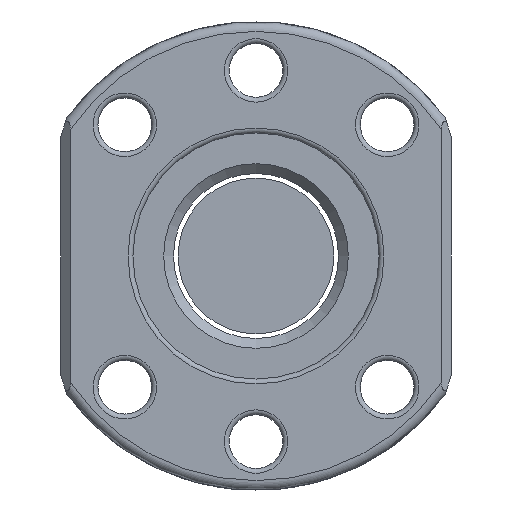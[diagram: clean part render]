
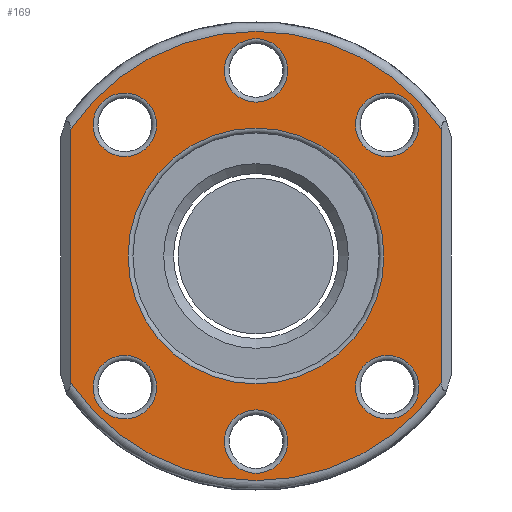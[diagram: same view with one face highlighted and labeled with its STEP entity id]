
A CAD part, front view. The second image highlights one B-rep face of the part: STEP entity #169.
In plain terms, the highlighted planar face has unit normal (0, -1, 0).
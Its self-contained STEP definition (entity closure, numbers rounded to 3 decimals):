
#64=LINE('',#1147,#88);
#65=LINE('',#1151,#89);
#88=VECTOR('',#931,1.);
#89=VECTOR('',#934,1.);
#132=PLANE('',#801);
#169=ADVANCED_FACE('',(#238,#239,#240,#241,#242,#243,#244,#245),#132,.T.);
#238=FACE_BOUND('',#317,.T.);
#239=FACE_BOUND('',#318,.T.);
#240=FACE_BOUND('',#319,.T.);
#241=FACE_BOUND('',#320,.T.);
#242=FACE_BOUND('',#321,.T.);
#243=FACE_BOUND('',#322,.T.);
#244=FACE_BOUND('',#323,.T.);
#245=FACE_BOUND('',#324,.T.);
#317=EDGE_LOOP('',(#417));
#318=EDGE_LOOP('',(#418));
#319=EDGE_LOOP('',(#419));
#320=EDGE_LOOP('',(#420));
#321=EDGE_LOOP('',(#421));
#322=EDGE_LOOP('',(#422));
#323=EDGE_LOOP('',(#423));
#324=EDGE_LOOP('',(#424,#425,#426,#427));
#417=ORIENTED_EDGE('',*,*,#657,.T.);
#418=ORIENTED_EDGE('',*,*,#658,.T.);
#419=ORIENTED_EDGE('',*,*,#659,.T.);
#420=ORIENTED_EDGE('',*,*,#660,.T.);
#421=ORIENTED_EDGE('',*,*,#661,.T.);
#422=ORIENTED_EDGE('',*,*,#662,.T.);
#423=ORIENTED_EDGE('',*,*,#663,.T.);
#424=ORIENTED_EDGE('',*,*,#664,.T.);
#425=ORIENTED_EDGE('',*,*,#665,.T.);
#426=ORIENTED_EDGE('',*,*,#666,.T.);
#427=ORIENTED_EDGE('',*,*,#667,.T.);
#587=VERTEX_POINT('',#1131);
#588=VERTEX_POINT('',#1133);
#589=VERTEX_POINT('',#1135);
#590=VERTEX_POINT('',#1137);
#591=VERTEX_POINT('',#1139);
#592=VERTEX_POINT('',#1141);
#593=VERTEX_POINT('',#1143);
#594=VERTEX_POINT('',#1145);
#595=VERTEX_POINT('',#1146);
#596=VERTEX_POINT('',#1148);
#597=VERTEX_POINT('',#1150);
#657=EDGE_CURVE('',#587,#587,#739,.T.);
#658=EDGE_CURVE('',#588,#588,#740,.T.);
#659=EDGE_CURVE('',#589,#589,#741,.T.);
#660=EDGE_CURVE('',#590,#590,#742,.T.);
#661=EDGE_CURVE('',#591,#591,#743,.T.);
#662=EDGE_CURVE('',#592,#592,#744,.T.);
#663=EDGE_CURVE('',#593,#593,#745,.T.);
#664=EDGE_CURVE('',#594,#595,#746,.T.);
#665=EDGE_CURVE('',#595,#596,#64,.T.);
#666=EDGE_CURVE('',#596,#597,#747,.T.);
#667=EDGE_CURVE('',#597,#594,#65,.T.);
#739=CIRCLE('',#792,3.25);
#740=CIRCLE('',#793,3.25);
#741=CIRCLE('',#794,3.25);
#742=CIRCLE('',#795,3.25);
#743=CIRCLE('',#796,3.25);
#744=CIRCLE('',#797,3.25);
#745=CIRCLE('',#798,13.1);
#746=CIRCLE('',#799,23.);
#747=CIRCLE('',#800,23.);
#792=AXIS2_PLACEMENT_3D('',#1130,#915,#916);
#793=AXIS2_PLACEMENT_3D('',#1132,#917,#918);
#794=AXIS2_PLACEMENT_3D('',#1134,#919,#920);
#795=AXIS2_PLACEMENT_3D('',#1136,#921,#922);
#796=AXIS2_PLACEMENT_3D('',#1138,#923,#924);
#797=AXIS2_PLACEMENT_3D('',#1140,#925,#926);
#798=AXIS2_PLACEMENT_3D('',#1142,#927,#928);
#799=AXIS2_PLACEMENT_3D('',#1144,#929,#930);
#800=AXIS2_PLACEMENT_3D('',#1149,#932,#933);
#801=AXIS2_PLACEMENT_3D('',#1152,#935,#936);
#915=DIRECTION('',(0.,1.,0.));
#916=DIRECTION('',(0.,0.,-1.));
#917=DIRECTION('',(0.,1.,0.));
#918=DIRECTION('',(0.,0.,-1.));
#919=DIRECTION('',(0.,1.,0.));
#920=DIRECTION('',(0.,0.,-1.));
#921=DIRECTION('',(0.,1.,0.));
#922=DIRECTION('',(0.,0.,-1.));
#923=DIRECTION('',(0.,1.,0.));
#924=DIRECTION('',(0.,0.,-1.));
#925=DIRECTION('',(0.,1.,0.));
#926=DIRECTION('',(0.,0.,-1.));
#927=DIRECTION('',(0.,1.,0.));
#928=DIRECTION('',(0.,0.,-1.));
#929=DIRECTION('',(0.,-1.,0.));
#930=DIRECTION('',(0.,0.,-1.));
#931=DIRECTION('',(0.,0.,1.));
#932=DIRECTION('',(0.,-1.,0.));
#933=DIRECTION('',(0.,0.,-1.));
#934=DIRECTION('',(0.,0.,-1.));
#935=DIRECTION('',(0.,-1.,0.));
#936=DIRECTION('',(0.,0.,-1.));
#1130=CARTESIAN_POINT('',(13.435,0.,-13.435));
#1131=CARTESIAN_POINT('',(13.435,0.,-16.685));
#1132=CARTESIAN_POINT('',(0.,0.,-19.));
#1133=CARTESIAN_POINT('',(0.,0.,-22.25));
#1134=CARTESIAN_POINT('',(-13.435,0.,-13.435));
#1135=CARTESIAN_POINT('',(-13.435,0.,-16.685));
#1136=CARTESIAN_POINT('',(-13.435,0.,13.435));
#1137=CARTESIAN_POINT('',(-13.435,0.,10.185));
#1138=CARTESIAN_POINT('',(0.,0.,19.));
#1139=CARTESIAN_POINT('',(0.,0.,15.75));
#1140=CARTESIAN_POINT('',(13.435,0.,13.435));
#1141=CARTESIAN_POINT('',(13.435,0.,10.185));
#1142=CARTESIAN_POINT('',(0.,0.,0.));
#1143=CARTESIAN_POINT('',(0.,0.,-13.1));
#1144=CARTESIAN_POINT('',(0.,0.,0.));
#1145=CARTESIAN_POINT('',(-19.,0.,-12.961));
#1146=CARTESIAN_POINT('',(19.,0.,-12.961));
#1147=CARTESIAN_POINT('',(19.,0.,11.358));
#1148=CARTESIAN_POINT('',(19.,0.,12.961));
#1149=CARTESIAN_POINT('',(0.,0.,0.));
#1150=CARTESIAN_POINT('',(-19.,0.,12.961));
#1151=CARTESIAN_POINT('',(-19.,0.,0.));
#1152=CARTESIAN_POINT('',(0.,0.,0.));
